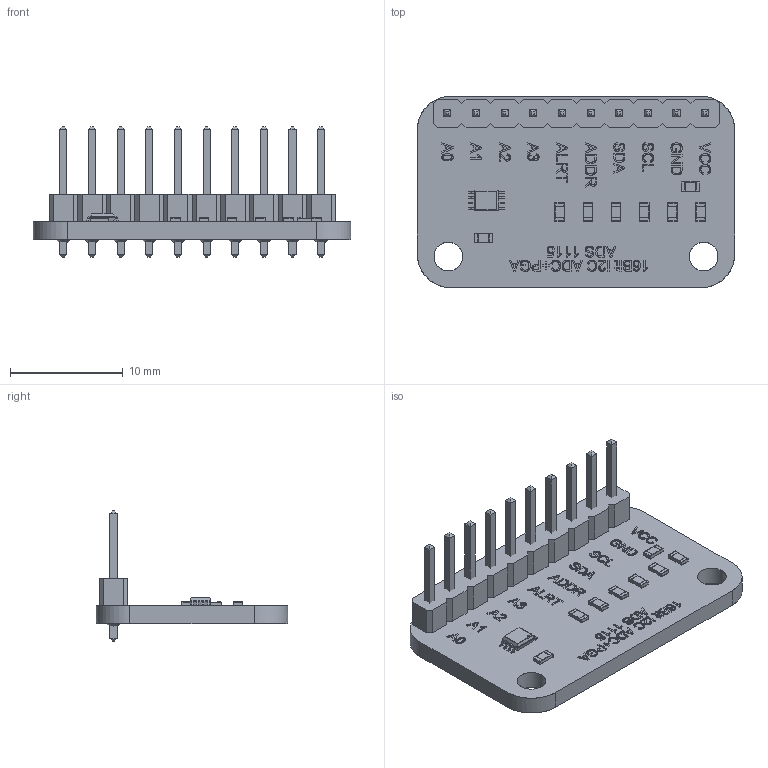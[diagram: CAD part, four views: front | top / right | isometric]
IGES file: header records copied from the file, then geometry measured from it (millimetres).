
Start section: C
Global section: file name: ADS1115.igs; native system: By Siemens PLM Incorporated; preprocessor: XPlus GENERIC/IGES 28.1.247; author: Author; organization: Title; date: 20260902.204221; units: millimetre
Bounding box: 28.15 x 17 x 11.54 mm (x, y, z)
Surface area: 1810.5 mm2 (no closed solid volume)
Topology: 0 solids, 0 shells, 1373 faces, 7906 edges, 7894 vertices
Faces by surface type: bspline 1373
